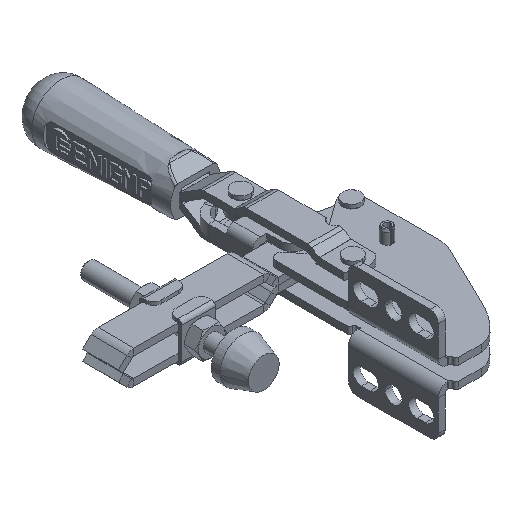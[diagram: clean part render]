
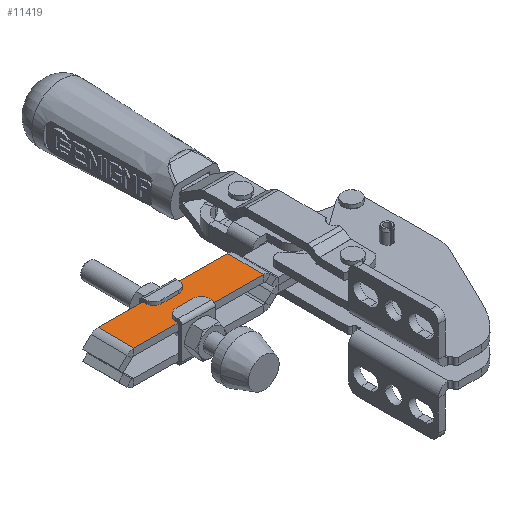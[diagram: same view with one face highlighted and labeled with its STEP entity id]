
A CAD part, isometric view. The second image highlights one B-rep face of the part: STEP entity #11419.
In plain terms, the highlighted planar face has unit normal (0, 0, 1).
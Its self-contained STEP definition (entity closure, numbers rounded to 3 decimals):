
#516 = VERTEX_POINT ( 'NONE', #8933 ) ;
#558 = AXIS2_PLACEMENT_3D ( 'NONE', #19091, #1720, #24538 ) ;
#643 = LINE ( 'NONE', #6629, #4269 ) ;
#990 = EDGE_CURVE ( 'NONE', #19069, #8395, #643, .T. ) ;
#1328 = LINE ( 'NONE', #16792, #14764 ) ;
#1720 = DIRECTION ( 'NONE',  ( 0., 0., -1. ) ) ;
#3293 = VECTOR ( 'NONE', #3780, 1000. ) ;
#3780 = DIRECTION ( 'NONE',  ( 1., 0., 0. ) ) ;
#4269 = VECTOR ( 'NONE', #21962, 1000. ) ;
#4339 = ORIENTED_EDGE ( 'NONE', *, *, #5666, .T. ) ;
#4893 = VECTOR ( 'NONE', #14406, 1000. ) ;
#5238 = ORIENTED_EDGE ( 'NONE', *, *, #990, .T. ) ;
#5666 = EDGE_CURVE ( 'NONE', #8395, #516, #1328, .T. ) ;
#6629 = CARTESIAN_POINT ( 'NONE',  ( 85.916, 0., 6. ) ) ;
#7675 = EDGE_CURVE ( 'NONE', #19100, #19069, #21159, .T. ) ;
#8332 = CARTESIAN_POINT ( 'NONE',  ( 85.916, -5., 6. ) ) ;
#8395 = VERTEX_POINT ( 'NONE', #21087 ) ;
#8933 = CARTESIAN_POINT ( 'NONE',  ( 39.48, 8., 6. ) ) ;
#9339 = FACE_OUTER_BOUND ( 'NONE', #16764, .T. ) ;
#11367 = PLANE ( 'NONE',  #558 ) ;
#11419 = ADVANCED_FACE ( 'NONE', ( #9339 ), #11367, .F. ) ;
#12382 = CARTESIAN_POINT ( 'NONE',  ( 39.48, 0., 6. ) ) ;
#13662 = CARTESIAN_POINT ( 'NONE',  ( 21.744, -5., 6. ) ) ;
#14406 = DIRECTION ( 'NONE',  ( 0., 1., 0. ) ) ;
#14764 = VECTOR ( 'NONE', #14786, 1000. ) ;
#14786 = DIRECTION ( 'NONE',  ( -1., 0., 0. ) ) ;
#14887 = EDGE_CURVE ( 'NONE', #19100, #516, #16160, .T. ) ;
#16160 = LINE ( 'NONE', #12382, #4893 ) ;
#16764 = EDGE_LOOP ( 'NONE', ( #5238, #4339, #24398, #17343 ) ) ;
#16792 = CARTESIAN_POINT ( 'NONE',  ( 90.744, 8., 6. ) ) ;
#17343 = ORIENTED_EDGE ( 'NONE', *, *, #7675, .T. ) ;
#18210 = CARTESIAN_POINT ( 'NONE',  ( 39.48, -5., 6. ) ) ;
#19069 = VERTEX_POINT ( 'NONE', #8332 ) ;
#19091 = CARTESIAN_POINT ( 'NONE',  ( -1.256, 0., 6. ) ) ;
#19100 = VERTEX_POINT ( 'NONE', #18210 ) ;
#21087 = CARTESIAN_POINT ( 'NONE',  ( 85.916, 8., 6. ) ) ;
#21159 = LINE ( 'NONE', #13662, #3293 ) ;
#21962 = DIRECTION ( 'NONE',  ( 0., 1., 0. ) ) ;
#24398 = ORIENTED_EDGE ( 'NONE', *, *, #14887, .F. ) ;
#24538 = DIRECTION ( 'NONE',  ( 1., 0., 0. ) ) ;
